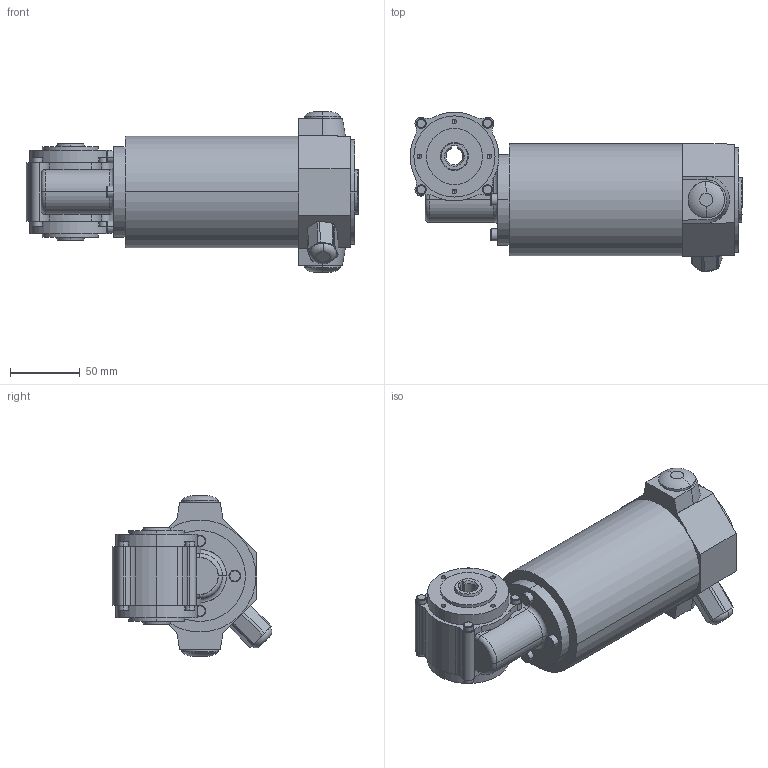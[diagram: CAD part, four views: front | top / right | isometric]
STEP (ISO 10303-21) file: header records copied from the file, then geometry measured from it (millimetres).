
FILE_DESCRIPTION(('OneSpaceDesigner STEP Export'),'2;1');
FILE_NAME('EPG13_GB12.stp','2009-09-14T11:22:23',(''),(''),'OneSpace Designer STEP processor (Jan. 2003) for AP214(CD)(Solid Model)','OneSpace Designer 12.01D 09-Jul-2004 (C) CoCreate Software GmbH','');
FILE_SCHEMA(('AUTOMOTIVE_DESIGN_CC2 {1 2 10303 214 -1 1 5 1}'));
Length unit declared in the file: millimetre
Products named in the file (2): EPG13_GB12
Assembly tree (1 placements, depth 2):
  EPG13_GB12
    EPG13_GB12
Bounding box: 237.25 x 114.12 x 115 mm (x, y, z)
Volume: 1113539 mm3; surface area: 82722.4 mm2
Topology: 1 solids, 1 shells, 255 faces, 662 edges, 434 vertices
Faces by surface type: cylinder 126, plane 67, cone 46, torus 14, bspline 2
Entity records: 9524 total; most frequent: CARTESIAN_POINT 4049, ORIENTED_EDGE 1292, DIRECTION 906, EDGE_CURVE 646, VERTEX_POINT 434, AXIS2_PLACEMENT_3D 333, EDGE_LOOP 298, FACE_OUTER_BOUND 255
